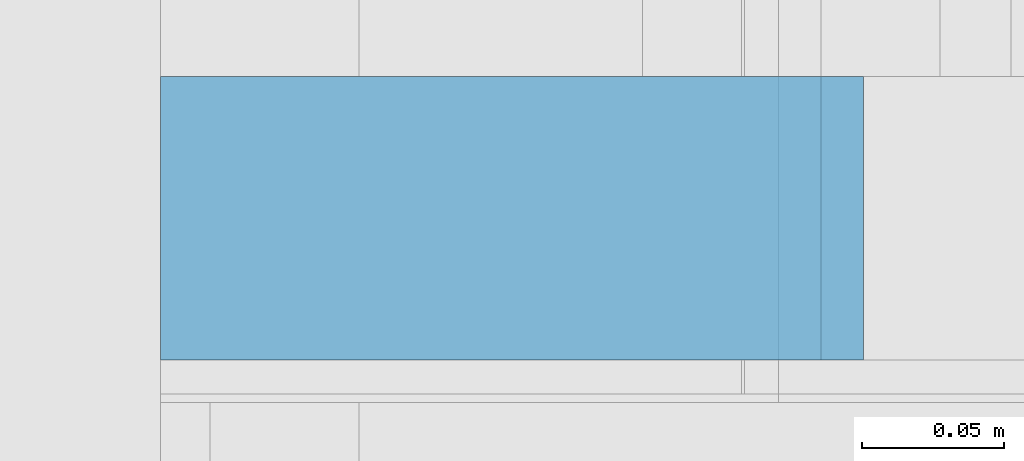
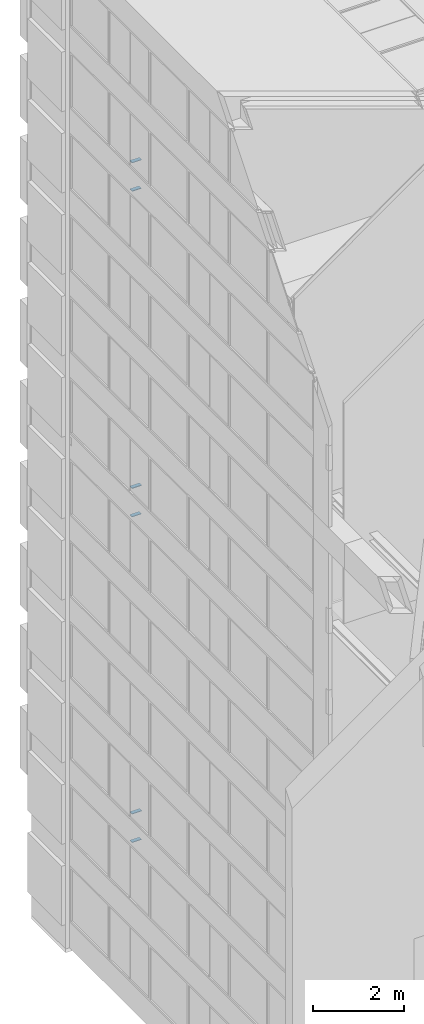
# One storey, part 208 of 583: 6 building element parts, 6 elements without a shape of their own.
"""IFC2X3 building model written with IfcOpenShell, lengths in metres."""

import ifcopenshell
import ifcopenshell.guid

model = None  # the IFC model being written
_history = None  # IfcOwnerHistory: only IFC2X3 demands one
_inside = {}  # id of a spatial element -> (the spatial element, [elements in it])
_under = {}  # id of a project, library or spatial element -> (it, [spatial elements below it])
_declared = {}  # id of a project -> (the project, [libraries it declares])
_typed = {}  # id of a type object -> (the type object, [elements of that type])
_made_of = {}  # id of a material, layer set ... -> (it, [elements and type objects made of it])


def new_model(schema):
    """Start an empty IFC model of exactly this schema.

    Asked for "IFC4X3", IfcOpenShell would pick the latest addendum, in which some entities
    have other attributes; the version numbers below select the first issue.
    IFC2X3 requires an IfcOwnerHistory on every rooted entity: one is made here for all.
    """
    global model, _history
    if schema == "IFC4X3":
        model = ifcopenshell.file(schema_version=(4, 3, 0, 0))
    else:
        model = ifcopenshell.file(schema=schema)
    _inside.clear()
    _under.clear()
    _declared.clear()
    _typed.clear()
    _made_of.clear()
    _history = None
    if model.schema == "IFC2X3":
        org = make("IfcOrganization", Name="unknown")
        user = make(
            "IfcPersonAndOrganization",
            ThePerson=make("IfcPerson", FamilyName="unknown"),
            TheOrganization=org,
        )
        app = make(
            "IfcApplication",
            ApplicationDeveloper=org,
            Version="unknown",
            ApplicationFullName="unknown",
            ApplicationIdentifier="unknown",
        )
        _history = make(
            "IfcOwnerHistory",
            OwningUser=user,
            OwningApplication=app,
            ChangeAction="ADDED",
            CreationDate=0,
        )
    return model


def make(cls, **values):
    """One entity of the class cls with the attributes given. An attribute that is None is left unset."""
    return model.create_entity(
        cls, **{name: value for name, value in values.items() if value is not None}
    )


def entity(cls, *values):
    """Any entity or typed value of the class cls, its attributes in the order of the schema. None: left unset."""
    e = model.create_entity(cls)
    for i, value in enumerate(values):
        if value is not None:
            e[i] = value
    return e


def rooted(cls, **values):
    """An entity with a GlobalId (a new one), such as an element, a storey or a relation."""
    return make(cls, GlobalId=ifcopenshell.guid.new(), OwnerHistory=_history, **values)


def si_unit(unit_type, name, prefix=None):
    """IfcSIUnit, for example si_unit("LENGTHUNIT", "METRE", prefix="MILLI")."""
    return make("IfcSIUnit", UnitType=unit_type, Prefix=prefix, Name=name)


def converted_unit(unit_type, name, factor, base, dimensions=None, offset=None):
    """IfcConversionBasedUnit, such as the inch: factor (a typed value) times the base unit."""
    return make(
        "IfcConversionBasedUnit"
        if offset is None
        else "IfcConversionBasedUnitWithOffset",
        ConversionOffset=offset,
        Dimensions=None
        if dimensions is None
        else entity("IfcDimensionalExponents", *dimensions),
        UnitType=unit_type,
        Name=name,
        ConversionFactor=make(
            "IfcMeasureWithUnit", ValueComponent=factor, UnitComponent=base
        ),
    )


def derived_unit(unit_type, elements):
    """IfcDerivedUnit: a product of units, each with its exponent."""
    return make(
        "IfcDerivedUnit",
        Elements=[
            make("IfcDerivedUnitElement", Unit=unit, Exponent=power)
            for unit, power in elements
        ],
        UnitType=unit_type,
    )


def money_unit(currency):
    """IfcMonetaryUnit."""
    return make("IfcMonetaryUnit", Currency=currency)


def assignment(units):
    """IfcUnitAssignment: the units of a project."""
    return None if units is None else make("IfcUnitAssignment", Units=units)


def point(xyz):
    """IfcCartesianPoint."""
    return None if xyz is None else make("IfcCartesianPoint", Coordinates=xyz)


def direction(xyz):
    """IfcDirection."""
    return None if xyz is None else make("IfcDirection", DirectionRatios=xyz)


def frame(location, z_axis=None, x_axis=None):
    """IfcAxis2Placement3D, a coordinate frame: its origin and axes. An axis left out is left unset."""
    return make(
        "IfcAxis2Placement3D",
        Location=point(location),
        Axis=direction(z_axis),
        RefDirection=direction(x_axis),
    )


def origin_with_axes():
    """The frame at (0, 0, 0) with the z axis (0, 0, 1) and the x axis (1, 0, 0) written out."""
    return frame((0.0, 0.0, 0.0), z_axis=(0.0, 0.0, 1.0), x_axis=(1.0, 0.0, 0.0))


def place(relative_to, where):
    """IfcLocalPlacement: puts the frame where relative to a parent placement (None: the world)."""
    return make(
        "IfcLocalPlacement", PlacementRelTo=relative_to, RelativePlacement=where
    )


def context(
    kind, dimensions, precision=None, world=None, true_north=None, identifier=None
):
    """IfcGeometricRepresentationContext, for example the 3D "Model" context."""
    return make(
        "IfcGeometricRepresentationContext",
        ContextIdentifier=identifier,
        ContextType=kind,
        CoordinateSpaceDimension=dimensions,
        Precision=precision,
        WorldCoordinateSystem=world,
        TrueNorth=true_north,
    )


def subcontext(parent, identifier, kind, view, scale=None):
    """IfcGeometricRepresentationSubContext, for example "Body" below "Model"."""
    return make(
        "IfcGeometricRepresentationSubContext",
        ContextIdentifier=identifier,
        ContextType=kind,
        ParentContext=parent,
        TargetScale=scale,
        TargetView=view,
    )


def project(units=None, contexts=None):
    """IfcProject with its units and contexts."""
    return rooted(
        "IfcProject",
        Name="project",
        RepresentationContexts=contexts,
        UnitsInContext=assignment(units),
    )


def spatial(cls, under=None, at=None, **own):
    """A site, building, storey or space (cls), placed at a placement, below another one or the project."""
    s = rooted(cls, ObjectPlacement=at, **own)
    if under is not None:
        _under.setdefault(under.id(), (under, []))[1].append(s)
    return s


def polyline(points):
    """IfcPolyline through the points."""
    return make("IfcPolyline", Points=[point(p) for p in points])


def outline(outer, holes=None, kind="AREA"):
    """IfcArbitraryClosedProfileDef: a profile drawn as a closed curve; with holes, ...WithVoids."""
    if holes is None:
        return make("IfcArbitraryClosedProfileDef", ProfileType=kind, OuterCurve=outer)
    return make(
        "IfcArbitraryProfileDefWithVoids",
        ProfileType=kind,
        OuterCurve=outer,
        InnerCurves=holes,
    )


def extrude(swept, where, along, depth):
    """IfcExtrudedAreaSolid: the profile swept, set in the frame where, extruded along a direction by depth."""
    return make(
        "IfcExtrudedAreaSolid",
        SweptArea=swept,
        Position=where,
        ExtrudedDirection=direction(along),
        Depth=depth,
    )


def shape(context_of_items, identifier, shape_type, items):
    """IfcShapeRepresentation: the items that make up one representation, for example the "Body"."""
    return make(
        "IfcShapeRepresentation",
        ContextOfItems=context_of_items,
        RepresentationIdentifier=identifier,
        RepresentationType=shape_type,
        Items=items,
    )


def material(Name=None, Category=None):
    """IfcMaterial."""
    return make("IfcMaterial", Name=Name, Category=Category)


def made_of(thing, what):
    """Note that an element or type object is made of a material, layer set ...; save() writes the relation."""
    if what is not None:
        _made_of.setdefault(what.id(), (what, []))[1].append(thing)
    return thing


def type_object(cls, material=None, **own):
    """A type object (cls), such as IfcWallType, which elements share."""
    return made_of(rooted(cls, **own), material)


def element(
    cls,
    number,
    at=None,
    inside=None,
    cuts=None,
    type_object=None,
    material=None,
    context=None,
    identifier="Body",
    shape_type=None,
    held_by="IfcProductDefinitionShape",
    body=None,
    shapes=None,
    **own,
):
    """One element of the class cls, such as IfcWall. Its Tag is "e" and its number.

    at: its placement. inside: the storey or other place that contains it. cuts: it is an
    opening in that element (IfcRelVoidsElement). A single representation is given by context,
    identifier, shape_type and body (its items); several are given by shapes. held_by: the class
    of the entity that holds the representations. save() writes the other relations.
    """
    e = rooted(cls, Tag="e%d" % number, ObjectPlacement=at, **own)
    if body is not None:
        shapes = [shape(context, identifier, shape_type, body)]
    if shapes is not None:
        e.Representation = make(held_by, Representations=shapes)
    if inside is not None:
        _inside.setdefault(inside.id(), (inside, []))[1].append(e)
    if cuts is not None:
        rooted(
            "IfcRelVoidsElement", RelatingBuildingElement=cuts, RelatedOpeningElement=e
        )
    if type_object is not None:
        _typed.setdefault(type_object.id(), (type_object, []))[1].append(e)
    return made_of(e, material)


def aggregate(whole, parts):
    """IfcRelAggregates: a whole, such as a stair, and the parts it consists of."""
    return rooted("IfcRelAggregates", RelatingObject=whole, RelatedObjects=parts)


def save(model, path):
    """Write the relations noted so far, then the file.

    IfcRelAggregates (storeys below a building ...), IfcRelContainedInSpatialStructure (elements
    in a storey), IfcRelDefinesByType, IfcRelAssociatesMaterial and IfcRelDeclares: one each for
    every whole, place, type object, material and project.
    """
    for whole, parts in _under.values():
        aggregate(whole, parts)
    for where, things in _inside.values():
        rooted(
            "IfcRelContainedInSpatialStructure",
            RelatedElements=things,
            RelatingStructure=where,
        )
    for kind, things in _typed.values():
        rooted("IfcRelDefinesByType", RelatedObjects=things, RelatingType=kind)
    for what, things in _made_of.values():
        rooted("IfcRelAssociatesMaterial", RelatedObjects=things, RelatingMaterial=what)
    for by, libraries in _declared.values():
        rooted("IfcRelDeclares", RelatingContext=by, RelatedDefinitions=libraries)
    model.write(path)


model = new_model("IFC2X3")

# Units and contexts
model_context = context("Model", 3, precision=1e-05, world=origin_with_axes(), true_north=direction((0.0, 1.0)))
body_context = subcontext(model_context, "Body", "Model", "MODEL_VIEW", scale=1.0)
ifc_project = project(units=[si_unit("LENGTHUNIT", "METRE"), si_unit("AREAUNIT", "SQUARE_METRE"), si_unit("VOLUMEUNIT", "CUBIC_METRE"), si_unit("ABSORBEDDOSEUNIT", "GRAY"), si_unit("AMOUNTOFSUBSTANCEUNIT", "MOLE"), si_unit("DOSEEQUIVALENTUNIT", "SIEVERT"), si_unit("ELECTRICCAPACITANCEUNIT", "FARAD"), si_unit("ELECTRICCHARGEUNIT", "COULOMB"), si_unit("ELECTRICCONDUCTANCEUNIT", "SIEMENS"), si_unit("ELECTRICCURRENTUNIT", "AMPERE"), si_unit("ELECTRICRESISTANCEUNIT", "OHM"), si_unit("ELECTRICVOLTAGEUNIT", "VOLT"), si_unit("ENERGYUNIT", "JOULE"), si_unit("FORCEUNIT", "NEWTON"), si_unit("FREQUENCYUNIT", "HERTZ"), si_unit("ILLUMINANCEUNIT", "LUX"), si_unit("INDUCTANCEUNIT", "HENRY"), si_unit("LUMINOUSFLUXUNIT", "LUMEN"), si_unit("LUMINOUSINTENSITYUNIT", "CANDELA"), si_unit("MAGNETICFLUXDENSITYUNIT", "TESLA"), si_unit("MAGNETICFLUXUNIT", "WEBER"), si_unit("MASSUNIT", "GRAM"), converted_unit("PLANEANGLEUNIT", "degree", entity("IfcReal", 0.0174532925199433), si_unit("PLANEANGLEUNIT", "RADIAN"), dimensions=[0, 0, 0, 0, 0, 0, 0]), si_unit("POWERUNIT", "WATT"), si_unit("PRESSUREUNIT", "PASCAL"), si_unit("RADIOACTIVITYUNIT", "BECQUEREL"), si_unit("SOLIDANGLEUNIT", "STERADIAN"), si_unit("THERMODYNAMICTEMPERATUREUNIT", "KELVIN"), si_unit("TIMEUNIT", "SECOND"), derived_unit("ACCELERATIONUNIT", [(si_unit("LENGTHUNIT", "METRE"), 1), (si_unit("TIMEUNIT", "SECOND"), -2)]), derived_unit("ANGULARVELOCITYUNIT", [(converted_unit("PLANEANGLEUNIT", "degree", entity("IfcReal", 0.0174532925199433), si_unit("PLANEANGLEUNIT", "RADIAN"), dimensions=[0, 0, 0, 0, 0, 0, 0]), 1), (si_unit("TIMEUNIT", "SECOND"), -1)]), derived_unit("CURVATUREUNIT", [(converted_unit("PLANEANGLEUNIT", "degree", entity("IfcReal", 0.0174532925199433), si_unit("PLANEANGLEUNIT", "RADIAN"), dimensions=[0, 0, 0, 0, 0, 0, 0]), 1), (si_unit("LENGTHUNIT", "METRE"), -1)]), derived_unit("DYNAMICVISCOSITYUNIT", [(si_unit("PRESSUREUNIT", "PASCAL"), 1), (si_unit("TIMEUNIT", "SECOND"), 1)]), derived_unit("HEATFLUXDENSITYUNIT", [(si_unit("POWERUNIT", "WATT"), 1), (si_unit("LENGTHUNIT", "METRE"), -2)]), derived_unit("HEATINGVALUEUNIT", [(si_unit("ENERGYUNIT", "JOULE"), 1), (si_unit("MASSUNIT", "GRAM"), -1)]), derived_unit("INTEGERCOUNTRATEUNIT", [(si_unit("TIMEUNIT", "SECOND"), -1)]), derived_unit("IONCONCENTRATIONUNIT", [(si_unit("MASSUNIT", "GRAM"), 1), (si_unit("VOLUMEUNIT", "CUBIC_METRE"), -1)]), derived_unit("ISOTHERMALMOISTURECAPACITYUNIT", [(si_unit("VOLUMEUNIT", "CUBIC_METRE"), 1), (si_unit("MASSUNIT", "GRAM"), -1)]), derived_unit("KINEMATICVISCOSITYUNIT", [(si_unit("AREAUNIT", "SQUARE_METRE"), 1), (si_unit("TIMEUNIT", "SECOND"), -1)]), derived_unit("LINEARFORCEUNIT", [(si_unit("FORCEUNIT", "NEWTON"), 1), (si_unit("LENGTHUNIT", "METRE"), -1)]), derived_unit("LINEARMOMENTUNIT", [(si_unit("FORCEUNIT", "NEWTON"), 1), (si_unit("LENGTHUNIT", "METRE"), -1)]), derived_unit("LINEARSTIFFNESSUNIT", [(si_unit("FORCEUNIT", "NEWTON"), 1), (si_unit("LENGTHUNIT", "METRE"), -1)]), derived_unit("LINEARVELOCITYUNIT", [(si_unit("LENGTHUNIT", "METRE"), 1), (si_unit("TIMEUNIT", "SECOND"), -1)]), derived_unit("LUMINOUSINTENSITYDISTRIBUTIONUNIT", [(si_unit("LUMINOUSINTENSITYUNIT", "CANDELA"), 1), (si_unit("LUMINOUSFLUXUNIT", "LUMEN"), -1)]), derived_unit("MASSDENSITYUNIT", [(si_unit("MASSUNIT", "GRAM"), 1), (si_unit("VOLUMEUNIT", "CUBIC_METRE"), -1)]), derived_unit("MASSFLOWRATEUNIT", [(si_unit("MASSUNIT", "GRAM"), 1), (si_unit("TIMEUNIT", "SECOND"), -1)]), derived_unit("MASSPERLENGTHUNIT", [(si_unit("MASSUNIT", "GRAM"), 1), (si_unit("LENGTHUNIT", "METRE"), -1)]), derived_unit("MODULUSOFELASTICITYUNIT", [(si_unit("FORCEUNIT", "NEWTON"), 1), (si_unit("AREAUNIT", "SQUARE_METRE"), -1)]), derived_unit("MODULUSOFLINEARSUBGRADEREACTIONUNIT", [(si_unit("FORCEUNIT", "NEWTON"), 1), (si_unit("LENGTHUNIT", "METRE"), -2)]), derived_unit("MODULUSOFROTATIONALSUBGRADEREACTIONUNIT", [(si_unit("FORCEUNIT", "NEWTON"), 1), (si_unit("LENGTHUNIT", "METRE"), 1)]), derived_unit("MODULUSOFSUBGRADEREACTIONUNIT", [(si_unit("FORCEUNIT", "NEWTON"), 1), (si_unit("VOLUMEUNIT", "CUBIC_METRE"), -1)]), derived_unit("MOISTUREDIFFUSIVITYUNIT", [(si_unit("VOLUMEUNIT", "CUBIC_METRE"), 1), (si_unit("TIMEUNIT", "SECOND"), -1)]), derived_unit("MOLECULARWEIGHTUNIT", [(si_unit("MASSUNIT", "GRAM"), 1), (si_unit("AMOUNTOFSUBSTANCEUNIT", "MOLE"), -1)]), derived_unit("PLANARFORCEUNIT", [(si_unit("FORCEUNIT", "NEWTON"), 1), (si_unit("LENGTHUNIT", "METRE"), -2)]), derived_unit("ROTATIONALFREQUENCYUNIT", [(si_unit("TIMEUNIT", "SECOND"), -1)]), derived_unit("ROTATIONALMASSUNIT", [(si_unit("MASSUNIT", "GRAM"), 1), (si_unit("LENGTHUNIT", "METRE"), 2)]), derived_unit("ROTATIONALSTIFFNESSUNIT", [(si_unit("FORCEUNIT", "NEWTON"), 1), (si_unit("LENGTHUNIT", "METRE"), 1), (converted_unit("PLANEANGLEUNIT", "degree", entity("IfcReal", 0.0174532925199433), si_unit("PLANEANGLEUNIT", "RADIAN"), dimensions=[0, 0, 0, 0, 0, 0, 0]), -1)]), derived_unit("SECTIONAREAINTEGRALUNIT", [(si_unit("LENGTHUNIT", "METRE"), 5)]), derived_unit("SECTIONMODULUSUNIT", [(si_unit("LENGTHUNIT", "METRE"), 3)]), derived_unit("SHEARMODULUSUNIT", [(si_unit("FORCEUNIT", "NEWTON"), 1), (si_unit("AREAUNIT", "SQUARE_METRE"), -1)]), derived_unit("SOUNDPOWERUNIT", [(si_unit("ENERGYUNIT", "JOULE"), 1), (si_unit("TIMEUNIT", "SECOND"), -1)]), derived_unit("SPECIFICHEATCAPACITYUNIT", [(si_unit("FORCEUNIT", "NEWTON"), 1), (si_unit("MASSUNIT", "GRAM"), -1), (si_unit("THERMODYNAMICTEMPERATUREUNIT", "KELVIN"), -1)]), derived_unit("TEMPERATUREGRADIENTUNIT", [(si_unit("THERMODYNAMICTEMPERATUREUNIT", "KELVIN"), 1), (si_unit("LENGTHUNIT", "METRE"), -1)]), derived_unit("THERMALADMITTANCEUNIT", [(si_unit("POWERUNIT", "WATT"), 1), (si_unit("AREAUNIT", "SQUARE_METRE"), -1), (si_unit("THERMODYNAMICTEMPERATUREUNIT", "KELVIN"), -1)]), derived_unit("THERMALCONDUCTANCEUNIT", [(si_unit("POWERUNIT", "WATT"), 1), (si_unit("LENGTHUNIT", "METRE"), -1), (si_unit("THERMODYNAMICTEMPERATUREUNIT", "KELVIN"), -1)]), derived_unit("THERMALEXPANSIONCOEFFICIENTUNIT", [(si_unit("THERMODYNAMICTEMPERATUREUNIT", "KELVIN"), -1)]), derived_unit("THERMALRESISTANCEUNIT", [(si_unit("AREAUNIT", "SQUARE_METRE"), 1), (si_unit("POWERUNIT", "WATT"), -1)]), derived_unit("THERMALTRANSMITTANCEUNIT", [(si_unit("POWERUNIT", "WATT"), 1), (si_unit("AREAUNIT", "SQUARE_METRE"), -1), (si_unit("THERMODYNAMICTEMPERATUREUNIT", "KELVIN"), -1)]), derived_unit("TORQUEUNIT", [(si_unit("FORCEUNIT", "NEWTON"), 1), (si_unit("LENGTHUNIT", "METRE"), 1)]), derived_unit("VAPORPERMEABILITYUNIT", [(si_unit("MASSUNIT", "GRAM"), 1), (si_unit("TIMEUNIT", "SECOND"), -1)]), derived_unit("VOLUMETRICFLOWRATEUNIT", [(si_unit("VOLUMEUNIT", "CUBIC_METRE"), 1), (si_unit("TIMEUNIT", "SECOND"), -1)]), derived_unit("WARPINGCONSTANTUNIT", [(si_unit("LENGTHUNIT", "METRE"), 6)]), derived_unit("WARPINGMOMENTUNIT", [(si_unit("FORCEUNIT", "NEWTON"), 1), (si_unit("LENGTHUNIT", "METRE"), 2)]), money_unit("GBP")], contexts=[model_context])

# Site, building, storey
site_placement = place(None, origin_with_axes())
site = spatial("IfcSite", under=ifc_project, at=site_placement, Name="Site", CompositionType="ELEMENT")
building_placement = place(site_placement, origin_with_axes())
building = spatial("IfcBuilding", under=site, at=building_placement, Name="Building01", CompositionType="ELEMENT")
storey_placement = place(building_placement, frame((0.0, 0.0, 20.78), z_axis=(0.0, 0.0, 1.0), x_axis=(1.0, 0.0, 0.0)))
storey = spatial("IfcBuildingStorey", under=building, at=storey_placement, Name="RL", CompositionType="ELEMENT", Elevation=20.78)

# Wall, building element part
wall_type = type_object("IfcWallType", Name="SHE_A-Walls_Type06f_ExternalWallInsulation_48+15mm", PredefinedType="NOTDEFINED")
wall_1_placement = place(storey_placement, frame((0.1, 12.13, -7.587), z_axis=(0.0, 1.0, 0.0), x_axis=(-1.0, 0.0, 0.0)))
wall_1 = element("IfcWall", 1, at=wall_1_placement, inside=storey, type_object=wall_type, Name="6F", ObjectType="SHE_A-Walls_Type06f_ExternalWallInsulation_48+15mm")
ifc_material = material(Name="A_BSUK_Walls_Timber")
building_element_part_1_placement = place(wall_1_placement, origin_with_axes())
building_element_part_1 = element("IfcBuildingElementPart", 2, at=building_element_part_1_placement, material=ifc_material, Name="2", context=body_context, shape_type="SweptSolid", body=[
    extrude(outline(polyline([(-0.248, -0.078), (0.0, -0.078), (0.0, -0.063), (-0.233, -0.063), (-0.248, -0.078)])), frame((0.0, 0.0, 0.015), z_axis=(0.0, 0.0, 1.0), x_axis=(1.0, 0.0, 0.0)), (0.0, 0.0, 1.0), 0.1),
])
aggregate(wall_1, [building_element_part_1])

wall_2_placement = place(storey_placement, frame((0.1, 12.13, -6.962876), z_axis=(0.0, 1.0, 0.0), x_axis=(-1.0, 0.0, 0.0)))
wall_2 = element("IfcWall", 3, at=wall_2_placement, inside=storey, type_object=wall_type, Name="6F", ObjectType="SHE_A-Walls_Type06f_ExternalWallInsulation_48+15mm")
building_element_part_2_placement = place(wall_2_placement, origin_with_axes())
building_element_part_2 = element("IfcBuildingElementPart", 4, at=building_element_part_2_placement, material=ifc_material, Name="2", context=body_context, shape_type="SweptSolid", body=[
    extrude(outline(polyline([(-0.233, 0.063), (0.0, 0.063), (0.0, 0.078), (-0.248, 0.078), (-0.233, 0.063)])), frame((0.0, 0.0, 0.015), z_axis=(0.0, 0.0, 1.0), x_axis=(1.0, 0.0, 0.0)), (0.0, 0.0, 1.0), 0.1),
])
aggregate(wall_2, [building_element_part_2])

wall_3_placement = place(storey_placement, frame((0.1, 12.13, 1.173), z_axis=(0.0, 1.0, 0.0), x_axis=(-1.0, 0.0, 0.0)))
wall_3 = element("IfcWall", 5, at=wall_3_placement, inside=storey, type_object=wall_type, Name="6F", ObjectType="SHE_A-Walls_Type06f_ExternalWallInsulation_48+15mm")
building_element_part_3_placement = place(wall_3_placement, origin_with_axes())
building_element_part_3 = element("IfcBuildingElementPart", 6, at=building_element_part_3_placement, material=ifc_material, Name="2", context=body_context, shape_type="SweptSolid", body=[
    extrude(outline(polyline([(-0.248, -0.078), (0.0, -0.078), (0.0, -0.063), (-0.233, -0.063), (-0.248, -0.078)])), frame((0.0, 0.0, 0.015), z_axis=(0.0, 0.0, 1.0), x_axis=(1.0, 0.0, 0.0)), (0.0, 0.0, 1.0), 0.1),
])
aggregate(wall_3, [building_element_part_3])

wall_4_placement = place(storey_placement, frame((0.1, 12.13, 1.797124), z_axis=(0.0, 1.0, 0.0), x_axis=(-1.0, 0.0, 0.0)))
wall_4 = element("IfcWall", 7, at=wall_4_placement, inside=storey, type_object=wall_type, Name="6F", ObjectType="SHE_A-Walls_Type06f_ExternalWallInsulation_48+15mm")
building_element_part_4_placement = place(wall_4_placement, origin_with_axes())
building_element_part_4 = element("IfcBuildingElementPart", 8, at=building_element_part_4_placement, material=ifc_material, Name="2", context=body_context, shape_type="SweptSolid", body=[
    extrude(outline(polyline([(-0.233, 0.063), (0.0, 0.063), (0.0, 0.078), (-0.248, 0.078), (-0.233, 0.063)])), frame((0.0, 0.0, 0.015), z_axis=(0.0, 0.0, 1.0), x_axis=(1.0, 0.0, 0.0)), (0.0, 0.0, 1.0), 0.1),
])
aggregate(wall_4, [building_element_part_4])

wall_5_placement = place(storey_placement, frame((0.1, 12.13, -16.347), z_axis=(0.0, 1.0, 0.0), x_axis=(-1.0, 0.0, 0.0)))
wall_5 = element("IfcWall", 9, at=wall_5_placement, inside=storey, type_object=wall_type, Name="6F", ObjectType="SHE_A-Walls_Type06f_ExternalWallInsulation_48+15mm")
building_element_part_5_placement = place(wall_5_placement, origin_with_axes())
building_element_part_5 = element("IfcBuildingElementPart", 10, at=building_element_part_5_placement, material=ifc_material, Name="2", context=body_context, shape_type="SweptSolid", body=[
    extrude(outline(polyline([(-0.248, -0.078), (0.0, -0.078), (0.0, -0.063), (-0.233, -0.063), (-0.248, -0.078)])), frame((0.0, 0.0, 0.015), z_axis=(0.0, 0.0, 1.0), x_axis=(1.0, 0.0, 0.0)), (0.0, 0.0, 1.0), 0.1),
])
aggregate(wall_5, [building_element_part_5])

wall_6_placement = place(storey_placement, frame((0.1, 12.13, -15.722876), z_axis=(0.0, 1.0, 0.0), x_axis=(-1.0, 0.0, 0.0)))
wall_6 = element("IfcWall", 11, at=wall_6_placement, inside=storey, type_object=wall_type, Name="6F", ObjectType="SHE_A-Walls_Type06f_ExternalWallInsulation_48+15mm")
building_element_part_6_placement = place(wall_6_placement, origin_with_axes())
building_element_part_6 = element("IfcBuildingElementPart", 12, at=building_element_part_6_placement, material=ifc_material, Name="2", context=body_context, shape_type="SweptSolid", body=[
    extrude(outline(polyline([(-0.233, 0.063), (0.0, 0.063), (0.0, 0.078), (-0.248, 0.078), (-0.233, 0.063)])), frame((0.0, 0.0, 0.015), z_axis=(0.0, 0.0, 1.0), x_axis=(1.0, 0.0, 0.0)), (0.0, 0.0, 1.0), 0.1),
])
aggregate(wall_6, [building_element_part_6])

save(model, "model.ifc")
